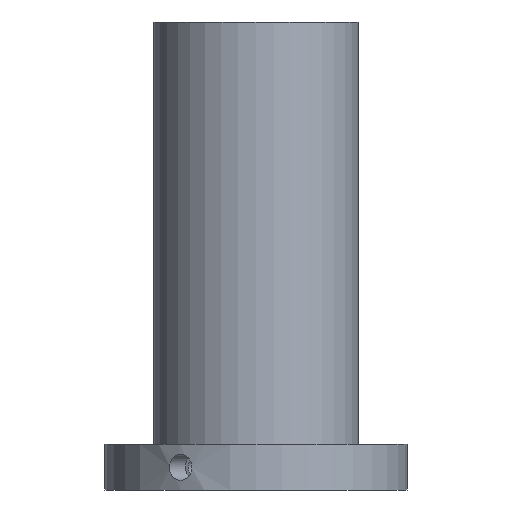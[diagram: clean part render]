
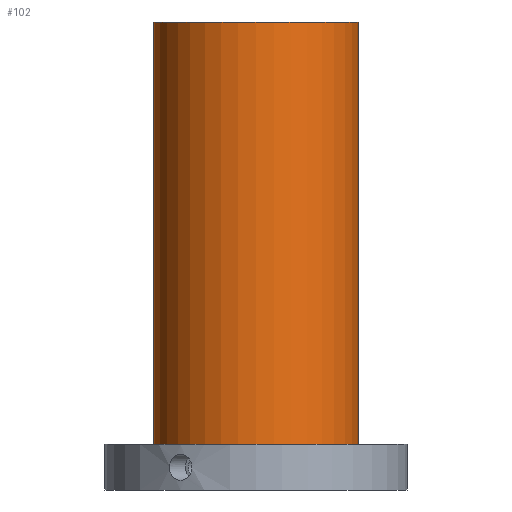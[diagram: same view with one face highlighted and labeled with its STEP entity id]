
A CAD part, front view. The second image highlights one B-rep face of the part: STEP entity #102.
In plain terms, the highlighted cylindrical face has radius 31.5 mm (diameter 63 mm), a full revolution.
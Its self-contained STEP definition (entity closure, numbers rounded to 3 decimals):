
#102=ADVANCED_FACE('',(#136,#137),#119,.T.);
#119=CYLINDRICAL_SURFACE('',#371,31.5);
#136=FACE_BOUND('',#188,.T.);
#137=FACE_BOUND('',#189,.T.);
#188=EDGE_LOOP('',(#240));
#189=EDGE_LOOP('',(#241));
#240=ORIENTED_EDGE('',*,*,#318,.F.);
#241=ORIENTED_EDGE('',*,*,#319,.T.);
#292=VERTEX_POINT('',#557);
#293=VERTEX_POINT('',#559);
#318=EDGE_CURVE('',#292,#292,#343,.T.);
#319=EDGE_CURVE('',#293,#293,#344,.T.);
#343=CIRCLE('',#369,31.5);
#344=CIRCLE('',#370,31.5);
#369=AXIS2_PLACEMENT_3D('',#556,#415,#416);
#370=AXIS2_PLACEMENT_3D('',#558,#417,#418);
#371=AXIS2_PLACEMENT_3D('',#560,#419,#420);
#415=DIRECTION('',(0.,0.,-1.));
#416=DIRECTION('',(1.,0.,0.));
#417=DIRECTION('',(0.,0.,-1.));
#418=DIRECTION('',(1.,0.,0.));
#419=DIRECTION('',(0.,0.,-1.));
#420=DIRECTION('',(-1.,0.,0.));
#556=CARTESIAN_POINT('',(0.,0.,14.));
#557=CARTESIAN_POINT('',(31.5,0.,14.));
#558=CARTESIAN_POINT('',(0.,0.,144.));
#559=CARTESIAN_POINT('',(31.5,0.,144.));
#560=CARTESIAN_POINT('',(0.,0.,144.));
